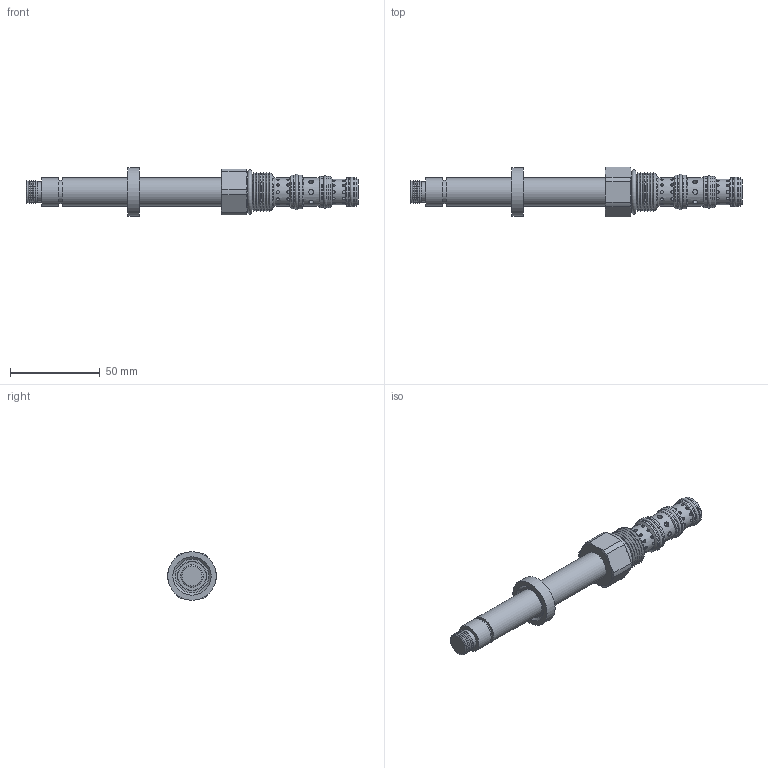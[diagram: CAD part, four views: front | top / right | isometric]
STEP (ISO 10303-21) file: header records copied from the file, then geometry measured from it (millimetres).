
FILE_DESCRIPTION((''),'2;1');
FILE_NAME('U:\sat files\DGS4O00.stp','2009-09-09T08:58:04',('Dan'),(''),'Autodesk Inventor 2009','Autodesk Inventor 2009','');
FILE_SCHEMA(('AUTOMOTIVE_DESIGN { 1 0 10303 214 1 1 1 1 }'));
Length unit declared in the file: inch
Products named in the file (13): DGS4O00; DGS4O001; DGS4O002; DGS4O003; DGS4O004; DGS4O005; DGS4O006; DGS4O007; DGS4O008; DGS4O009; DGS4O0010; DGS4O0011; DGS4O0012
Assembly tree (12 placements, depth 2):
  DGS4O00
    DGS4O001
    DGS4O002
    DGS4O003
    DGS4O004
    DGS4O005
    DGS4O006
    DGS4O007
    DGS4O008
    DGS4O009
    DGS4O0010
    DGS4O0011
    DGS4O0012
Bounding box: 184.99 x 27.77 x 26.97 mm (x, y, z)
Volume: 42976.1 mm3; surface area: 18321.9 mm2
Topology: 12 solids, 12 shells, 246 faces, 492 edges, 331 vertices
Faces by surface type: cylinder 98, plane 96, cone 46, torus 4, bspline 2
Full cylindrical faces by diameter (mm): 1.6 x48, 2.794 x8, 6.756 x1, 8.793 x1, 11.11 x1, 11.176 x1, 11.913 x1, 12.827 x1, 12.992 x1, 13.043 x2, 14.288 x1, 14.592 x1, 14.643 x2, 15.723 x2, 15.735 x2, 15.85 x1, 15.875 x3, 16.167 x1, 16.218 x2, 16.256 x1, 17.323 x3, 17.335 x2, 18.898 x2, 18.91 x2, 19.624 x1, 26.975 x1
Entity records: 7622 total; most frequent: CARTESIAN_POINT 2841, DIRECTION 980, ORIENTED_EDGE 638, AXIS2_PLACEMENT_3D 472, EDGE_LOOP 462, EDGE_CURVE 319, VERTEX_POINT 267, FACE_OUTER_BOUND 246
